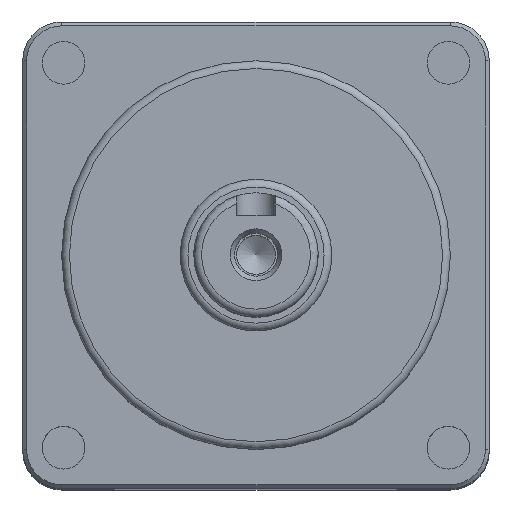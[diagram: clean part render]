
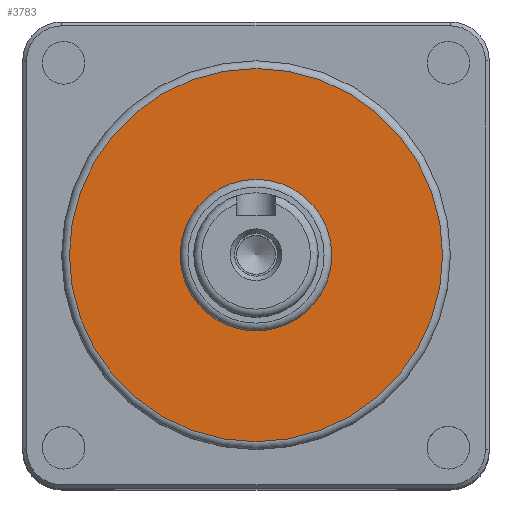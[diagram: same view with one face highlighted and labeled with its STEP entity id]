
A CAD part, top view. The second image highlights one B-rep face of the part: STEP entity #3783.
In plain terms, the highlighted planar face has unit normal (0, 0, 1).
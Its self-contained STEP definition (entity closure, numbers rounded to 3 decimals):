
#3151=CARTESIAN_POINT('',(-9.75,0.,-1.0));
#3152=VERTEX_POINT('',#3151);
#3153=CARTESIAN_POINT('',(0.0,0.0,-1.0));
#3154=DIRECTION('',(0.0,0.0,1.0));
#3155=DIRECTION('',(1.0,0.0,0.0));
#3156=AXIS2_PLACEMENT_3D('',#3153,#3154,#3155);
#3157=CIRCLE('',#3156,9.75);
#3158=EDGE_CURVE('',#3152,#3152,#3157,.T.);
#3760=CARTESIAN_POINT('',(-24.0,0.,-1.0));
#3761=VERTEX_POINT('',#3760);
#3762=CARTESIAN_POINT('',(0.0,0.0,-1.0));
#3763=DIRECTION('',(0.0,0.0,-1.0));
#3764=DIRECTION('',(1.0,0.0,0.0));
#3765=AXIS2_PLACEMENT_3D('',#3762,#3763,#3764);
#3766=CIRCLE('',#3765,24.0);
#3767=EDGE_CURVE('',#3761,#3761,#3766,.T.);
#3772=CARTESIAN_POINT('',(0.0,0.0,-1.0));
#3773=DIRECTION('',(0.0,0.0,1.0));
#3774=DIRECTION('',(1.0,0.0,0.0));
#3775=AXIS2_PLACEMENT_3D('',#3772,#3773,#3774);
#3776=PLANE('',#3775);
#3777=ORIENTED_EDGE('',*,*,#3767,.F.);
#3778=EDGE_LOOP('',(#3777));
#3779=FACE_OUTER_BOUND('',#3778,.T.);
#3780=ORIENTED_EDGE('',*,*,#3158,.F.);
#3781=EDGE_LOOP('',(#3780));
#3782=FACE_BOUND('',#3781,.T.);
#3783=ADVANCED_FACE('',(#3779,#3782),#3776,.T.);
